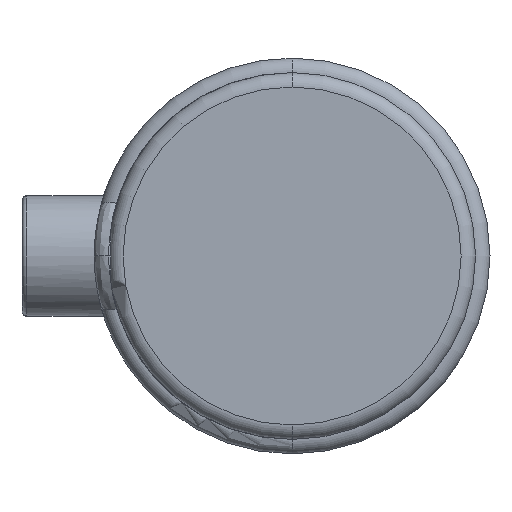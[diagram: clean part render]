
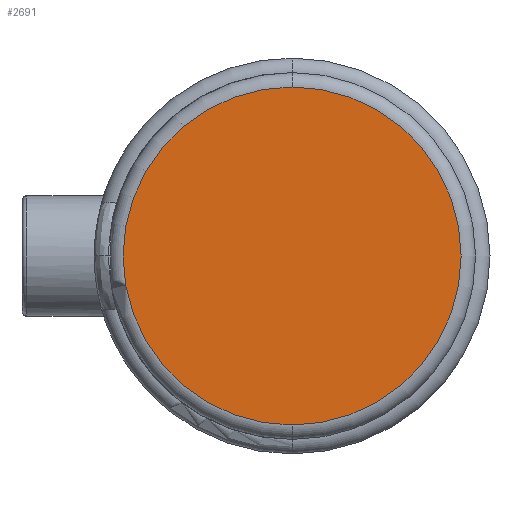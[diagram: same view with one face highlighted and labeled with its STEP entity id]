
A CAD part, left-side view. The second image highlights one B-rep face of the part: STEP entity #2691.
In plain terms, the highlighted planar face has unit normal (-1, 0, 0).
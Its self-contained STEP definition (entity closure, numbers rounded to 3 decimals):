
#279 = DIRECTION ( 'NONE',  ( 0., 0., 1. ) ) ;
#546 = ORIENTED_EDGE ( 'NONE', *, *, #1249, .T. ) ;
#739 = VERTEX_POINT ( 'NONE', #1148 ) ;
#857 = EDGE_LOOP ( 'NONE', ( #546, #3495 ) ) ;
#1148 = CARTESIAN_POINT ( 'NONE',  ( 0., 0., 35.1 ) ) ;
#1249 = EDGE_CURVE ( 'NONE', #739, #3267, #4866, .T. ) ;
#1445 = EDGE_CURVE ( 'NONE', #3267, #739, #2320, .T. ) ;
#1534 = AXIS2_PLACEMENT_3D ( 'NONE', #5641, #2945, #279 ) ;
#2320 = CIRCLE ( 'NONE', #5150, 35.1 ) ;
#2390 = CARTESIAN_POINT ( 'NONE',  ( 0., 0., 0. ) ) ;
#2502 = DIRECTION ( 'NONE',  ( -1., 0., 0. ) ) ;
#2691 = ADVANCED_FACE ( 'NONE', ( #5626 ), #4652, .T. ) ;
#2858 = DIRECTION ( 'NONE',  ( 0., 0., 1. ) ) ;
#2945 = DIRECTION ( 'NONE',  ( -1., 0., 0. ) ) ;
#3267 = VERTEX_POINT ( 'NONE', #5433 ) ;
#3495 = ORIENTED_EDGE ( 'NONE', *, *, #1445, .T. ) ;
#4436 = AXIS2_PLACEMENT_3D ( 'NONE', #2390, #5557, #2858 ) ;
#4652 = PLANE ( 'NONE',  #4436 ) ;
#4866 = CIRCLE ( 'NONE', #1534, 35.1 ) ;
#5150 = AXIS2_PLACEMENT_3D ( 'NONE', #5198, #2502, #5653 ) ;
#5198 = CARTESIAN_POINT ( 'NONE',  ( 0., 0., 0. ) ) ;
#5433 = CARTESIAN_POINT ( 'NONE',  ( 0., 0., -35.1 ) ) ;
#5557 = DIRECTION ( 'NONE',  ( -1., 0., 0. ) ) ;
#5626 = FACE_OUTER_BOUND ( 'NONE', #857, .T. ) ;
#5641 = CARTESIAN_POINT ( 'NONE',  ( 0., 0., 0. ) ) ;
#5653 = DIRECTION ( 'NONE',  ( 0., 0., 1. ) ) ;
